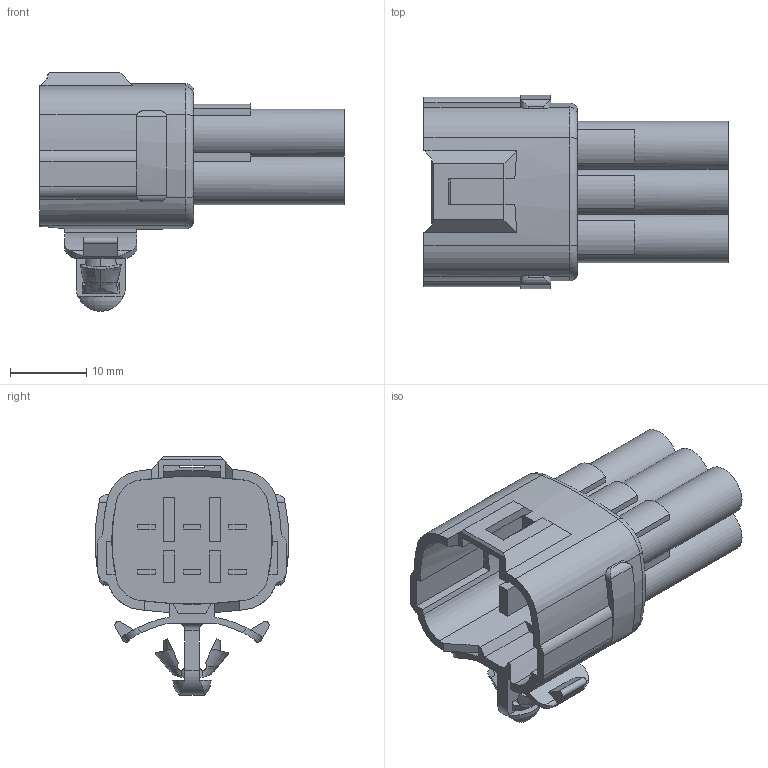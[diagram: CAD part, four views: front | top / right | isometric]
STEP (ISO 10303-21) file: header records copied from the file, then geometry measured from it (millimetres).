
FILE_DESCRIPTION(('CATIA V5 STEP Exchange','CAx-IF Rec.Pracs.--- Model Styling and Organization---1.2---2011-12-15'),'2;1');
FILE_NAME('N:\C-DAM_MyDesk\ENV\900093\6187-6561.stp','2015-01-22T05:18:23+00:00',('none'),('none'),'CATIA Version 5-6 Release 2012 SP4 HF74','CATIA V5 STEP AP214','none');
FILE_SCHEMA(('AUTOMOTIVE_DESIGN { 1 0 10303 214 1 1 1 1 }'));
Length unit declared in the file: millimetre
Products named in the file (1): 6187-6561
Bounding box: 40 x 25.47 x 31.4 mm (x, y, z)
Volume: 6819.1 mm3; surface area: 6276.1 mm2
Topology: 1 solids, 1 shells, 252 faces, 676 edges, 444 vertices
Faces by surface type: plane 143, cylinder 80, bspline 17, torus 10, cone 2
Entity records: 8414 total; most frequent: CARTESIAN_POINT 2651, ORIENTED_EDGE 1352, DIRECTION 887, EDGE_CURVE 676, VERTEX_POINT 444, VECTOR 372, LINE 372, AXIS2_PLACEMENT_3D 342
